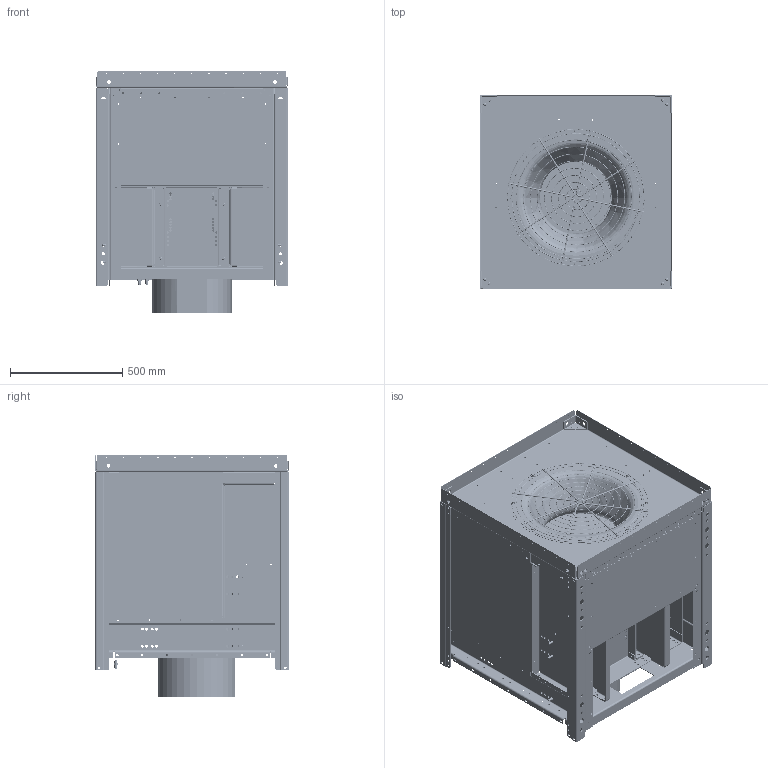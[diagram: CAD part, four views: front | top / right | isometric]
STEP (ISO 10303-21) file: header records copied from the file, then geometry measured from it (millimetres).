
FILE_DESCRIPTION((''),'2;1');
FILE_NAME('058684_ASM','2014-08-07T',('dbubemyre'),(''),'PRO/ENGINEER BY PARAMETRIC TECHNOLOGY CORPORATION, 2014090','PRO/ENGINEER BY PARAMETRIC TECHNOLOGY CORPORATION, 2014090','');
FILE_SCHEMA(('CONFIG_CONTROL_DESIGN'));
Length unit declared in the file: inch
Products named in the file (86): 0575820003; 0575830003; 0575740007; 0575880010; 057834_MIR; 0575820010_MIR; 057834; 0575990003_MIR_ASM; 0575820010; 0575740007_AF4; 0575990003_AF4_ASM; NEMA_284T_TEFC; 0575690004; 0575680008; 0576650023; 0579720002; 0575650004; 0579720002_B; 0575760004; 0575880011; 057581; NUT-INSERT_RIVET_31-18THD; WA012; HCS048; 0575660008; 0575700012; 0575790008; 0575890007_ASM; 0575660009; 0575700013; 0575790009; 0575890008_ASM; NUT-INSERT_RIVET_10-32THD; FITTING-TUBE-TO-THREAD_25; 05405801; 057632; 0544950007; 057631; 058559; BULKHEAD_TUBEFITTING_25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
Assembly tree (253 placements, depth 3):
  058684_ASM
    0575990003_MIR_ASM
      0575820003
      0575830003
      0575740007
      0575880010  x2
      057834_MIR
      0575820010_MIR
      057834
    0575990003_AF4_ASM
      0575820010
      0575830003
      0575820003
      0575740007_AF4
      0575880010  x2
      057834_MIR
      057834
    NEMA_284T_TEFC
    0575690004
    0575680008
    0576650023
    0579720002
    0575650004
    0579720002_B
    0575760004
    0575880011  x3
    057581  x4
    NUT-INSERT_RIVET_31-18THD  x8
    WA012  x8
    HCS048  x8
    0575890007_ASM
      0575660008
      0575700012
      0575790008
    0575890008_ASM
      0575660009
      0575700013
      0575790009
    NUT-INSERT_RIVET_10-32THD
    FITTING-TUBE-TO-THREAD_25
    05405801
    057632
    0544950007
    057631  x4
    058559
    BULKHEAD_TUBEFITTING_25  x2
    0575730001
    0576560003_ASM
      INLETGUARD_200
      RING_AF
      RING_AH
      ROD_200  x4
    057699-200_ASM
      057699_1_200
      057699_3_200  x2
      057699_2_200
      057699_4AA  x32
      057699_4AC  x2
      057699_4AD  x2
      057699_4AE  x2
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Bounding box: 858.26 x 864.36 x 1083.49 mm (x, y, z)
Volume: 176614449.4 mm3; surface area: 21978682.3 mm2
Topology: 245 solids, 245 shells, 6011 faces, 14476 edges, 9062 vertices
Faces by surface type: cylinder 3202, plane 2279, torus 268, cone 168, bspline 94
Entity records: 133036 total; most frequent: CARTESIAN_POINT 30271, DIRECTION 22700, ORIENTED_EDGE 19532, EDGE_CURVE 9766, AXIS2_PLACEMENT_3D 8891, VERTEX_POINT 6093, EDGE_LOOP 5557, VECTOR 4918
